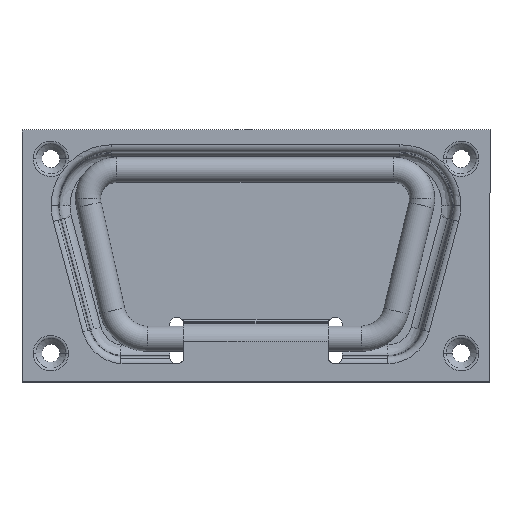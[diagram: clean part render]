
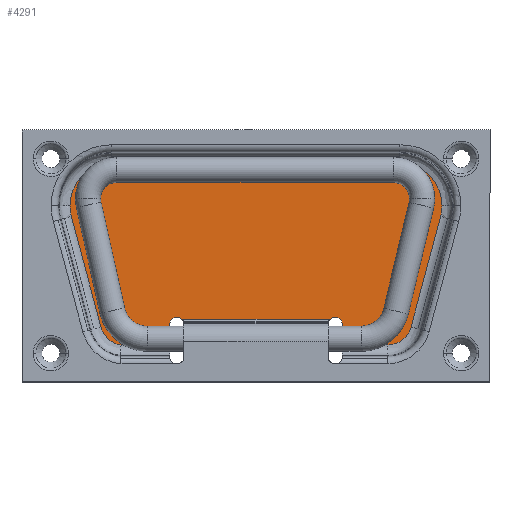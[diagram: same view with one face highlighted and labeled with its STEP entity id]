
A CAD part, top view. The second image highlights one B-rep face of the part: STEP entity #4291.
In plain terms, the highlighted planar face has unit normal (0, 0, 1).
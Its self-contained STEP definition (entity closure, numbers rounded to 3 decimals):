
#1357=CARTESIAN_POINT('',(-51.681,14.,-3.5));
#1358=VERTEX_POINT('',#1357);
#1368=CARTESIAN_POINT('',(-51.283,10.977,-3.5));
#1369=VERTEX_POINT('',#1368);
#1377=CARTESIAN_POINT('',(-40.,14.,-3.5));
#1378=DIRECTION('',(0.0,0.0,-1.));
#1379=DIRECTION('',(-0.793,0.609,0.0));
#1380=AXIS2_PLACEMENT_3D('',#1377,#1378,#1379);
#1381=CIRCLE('',#1380,11.681);
#1382=EDGE_CURVE('',#1369,#1358,#1381,.T.);
#1410=CARTESIAN_POINT('',(51.681,14.,-3.5));
#1411=VERTEX_POINT('',#1410);
#1419=CARTESIAN_POINT('',(51.283,10.977,-3.5));
#1420=VERTEX_POINT('',#1419);
#1421=CARTESIAN_POINT('',(40.,14.,-3.5));
#1422=DIRECTION('',(0.0,0.0,-1.0));
#1423=DIRECTION('',(0.793,0.609,0.0));
#1424=AXIS2_PLACEMENT_3D('',#1421,#1422,#1423);
#1425=CIRCLE('',#1424,11.681);
#1426=EDGE_CURVE('',#1411,#1420,#1425,.T.);
#2259=CARTESIAN_POINT('',(-20.592,-17.579,-3.5));
#2260=VERTEX_POINT('',#2259);
#2272=CARTESIAN_POINT('',(-24.0,-19.0,-3.5));
#2273=VERTEX_POINT('',#2272);
#2274=CARTESIAN_POINT('',(-22.0,-19.,-3.5));
#2275=DIRECTION('',(0.0,0.0,-1.0));
#2276=DIRECTION('',(1.0,0.0,0.0));
#2277=AXIS2_PLACEMENT_3D('',#2274,#2275,#2276);
#2278=CIRCLE('',#2277,2.0);
#2279=EDGE_CURVE('',#2273,#2260,#2278,.T.);
#3264=CARTESIAN_POINT('',(20.592,-17.579,-3.5));
#3265=VERTEX_POINT('',#3264);
#3277=CARTESIAN_POINT('',(20.592,-17.579,-3.5));
#3278=DIRECTION('',(-1.0,0.0,0.0));
#3279=VECTOR('',#3278,41.184);
#3280=LINE('',#3277,#3279);
#3281=EDGE_CURVE('',#3265,#2260,#3280,.T.);
#3293=CARTESIAN_POINT('',(-24.0,-24.681,-3.5));
#3294=VERTEX_POINT('',#3293);
#3302=CARTESIAN_POINT('',(-37.482,-24.681,-3.5));
#3303=VERTEX_POINT('',#3302);
#3304=CARTESIAN_POINT('',(-24.0,-24.681,-3.5));
#3305=DIRECTION('',(-1.0,0.0,0.0));
#3306=VECTOR('',#3305,13.482);
#3307=LINE('',#3304,#3306);
#3308=EDGE_CURVE('',#3294,#3303,#3307,.T.);
#3332=CARTESIAN_POINT('',(-40.0,25.681,-3.5));
#3333=VERTEX_POINT('',#3332);
#3341=CARTESIAN_POINT('',(40.,25.681,-3.5));
#3342=VERTEX_POINT('',#3341);
#3343=CARTESIAN_POINT('',(-40.0,25.681,-3.5));
#3344=DIRECTION('',(1.0,0.0,0.0));
#3345=VECTOR('',#3344,80.0);
#3346=LINE('',#3343,#3345);
#3347=EDGE_CURVE('',#3333,#3342,#3346,.T.);
#3422=CARTESIAN_POINT('',(40.,14.,-3.5));
#3423=DIRECTION('',(0.0,0.0,-1.0));
#3424=DIRECTION('',(0.793,0.609,0.0));
#3425=AXIS2_PLACEMENT_3D('',#3422,#3423,#3424);
#3426=CIRCLE('',#3425,11.681);
#3427=EDGE_CURVE('',#3342,#1411,#3426,.T.);
#3486=CARTESIAN_POINT('',(-40.,14.,-3.5));
#3487=DIRECTION('',(0.0,0.0,-1.));
#3488=DIRECTION('',(-0.793,0.609,0.0));
#3489=AXIS2_PLACEMENT_3D('',#3486,#3487,#3488);
#3490=CIRCLE('',#3489,11.681);
#3491=EDGE_CURVE('',#1358,#3333,#3490,.T.);
#3512=CARTESIAN_POINT('',(43.056,-19.729,-3.5));
#3513=VERTEX_POINT('',#3512);
#3514=CARTESIAN_POINT('',(51.283,10.977,-3.5));
#3515=DIRECTION('',(-0.259,-0.966,0.0));
#3516=VECTOR('',#3515,31.789);
#3517=LINE('',#3514,#3516);
#3518=EDGE_CURVE('',#1420,#3513,#3517,.T.);
#3536=CARTESIAN_POINT('',(-43.04,-19.79,-3.5));
#3537=VERTEX_POINT('',#3536);
#3545=CARTESIAN_POINT('',(-43.04,-19.79,-3.5));
#3546=DIRECTION('',(-0.259,0.966,0.0));
#3547=VECTOR('',#3546,31.852);
#3548=LINE('',#3545,#3547);
#3549=EDGE_CURVE('',#3537,#1369,#3548,.T.);
#3578=CARTESIAN_POINT('',(36.602,-24.681,-3.5));
#3579=VERTEX_POINT('',#3578);
#3597=CARTESIAN_POINT('',(36.602,-18.,-3.5));
#3598=DIRECTION('',(0.0,0.0,-1.));
#3599=DIRECTION('',(0.609,-0.793,0.0));
#3600=AXIS2_PLACEMENT_3D('',#3597,#3598,#3599);
#3601=CIRCLE('',#3600,6.681);
#3602=EDGE_CURVE('',#3513,#3579,#3601,.T.);
#3630=CARTESIAN_POINT('',(-36.586,-18.06,-3.5));
#3631=DIRECTION('',(0.0,0.0,-1.0));
#3632=DIRECTION('',(-0.652,-0.758,0.0));
#3633=AXIS2_PLACEMENT_3D('',#3630,#3631,#3632);
#3634=CIRCLE('',#3633,6.681);
#3635=EDGE_CURVE('',#3303,#3537,#3634,.T.);
#3658=CARTESIAN_POINT('',(24.,-24.681,-3.5));
#3659=VERTEX_POINT('',#3658);
#3660=CARTESIAN_POINT('',(36.602,-24.681,-3.5));
#3661=DIRECTION('',(-1.0,0.0,0.0));
#3662=VECTOR('',#3661,12.602);
#3663=LINE('',#3660,#3662);
#3664=EDGE_CURVE('',#3579,#3659,#3663,.T.);
#4155=CARTESIAN_POINT('',(-24.0,-24.681,-3.5));
#4156=DIRECTION('',(0.0,1.0,0.0));
#4157=VECTOR('',#4156,5.681);
#4158=LINE('',#4155,#4157);
#4159=EDGE_CURVE('',#3294,#2273,#4158,.T.);
#4186=CARTESIAN_POINT('',(24.,-19.0,-3.5));
#4187=VERTEX_POINT('',#4186);
#4188=CARTESIAN_POINT('',(24.,-19.0,-3.5));
#4189=DIRECTION('',(0.0,-1.0,0.0));
#4190=VECTOR('',#4189,5.681);
#4191=LINE('',#4188,#4190);
#4192=EDGE_CURVE('',#4187,#3659,#4191,.T.);
#4228=CARTESIAN_POINT('',(22.,-19.,-3.5));
#4229=DIRECTION('',(0.0,0.0,-1.0));
#4230=DIRECTION('',(1.0,0.0,0.0));
#4231=AXIS2_PLACEMENT_3D('',#4228,#4229,#4230);
#4232=CIRCLE('',#4231,2.0);
#4233=EDGE_CURVE('',#3265,#4187,#4232,.T.);
#4268=CARTESIAN_POINT('',(-0.007,1.302,-3.5));
#4269=DIRECTION('',(0.0,0.0,1.0));
#4270=DIRECTION('',(1.0,0.0,0.0));
#4271=AXIS2_PLACEMENT_3D('',#4268,#4269,#4270);
#4272=PLANE('',#4271);
#4273=ORIENTED_EDGE('',*,*,#3281,.F.);
#4274=ORIENTED_EDGE('',*,*,#4233,.T.);
#4275=ORIENTED_EDGE('',*,*,#4192,.T.);
#4276=ORIENTED_EDGE('',*,*,#3664,.F.);
#4277=ORIENTED_EDGE('',*,*,#3602,.F.);
#4278=ORIENTED_EDGE('',*,*,#3518,.F.);
#4279=ORIENTED_EDGE('',*,*,#1426,.F.);
#4280=ORIENTED_EDGE('',*,*,#3427,.F.);
#4281=ORIENTED_EDGE('',*,*,#3347,.F.);
#4282=ORIENTED_EDGE('',*,*,#3491,.F.);
#4283=ORIENTED_EDGE('',*,*,#1382,.F.);
#4284=ORIENTED_EDGE('',*,*,#3549,.F.);
#4285=ORIENTED_EDGE('',*,*,#3635,.F.);
#4286=ORIENTED_EDGE('',*,*,#3308,.F.);
#4287=ORIENTED_EDGE('',*,*,#4159,.T.);
#4288=ORIENTED_EDGE('',*,*,#2279,.T.);
#4289=EDGE_LOOP('',(#4273,#4274,#4275,#4276,#4277,#4278,#4279,#4280,#4281,#4282,#4283,#4284,#4285,#4286,#4287,#4288));
#4290=FACE_OUTER_BOUND('',#4289,.T.);
#4291=ADVANCED_FACE('',(#4290),#4272,.T.);
